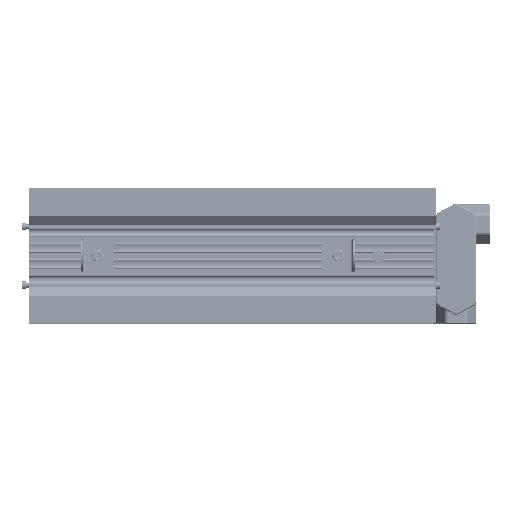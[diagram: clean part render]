
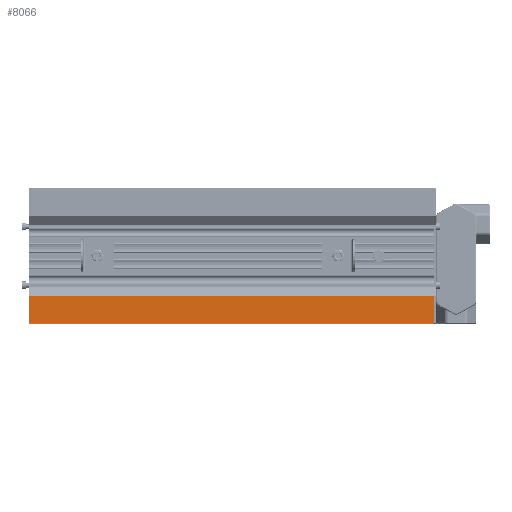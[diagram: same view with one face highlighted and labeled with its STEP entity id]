
A CAD part, top view. The second image highlights one B-rep face of the part: STEP entity #8066.
In plain terms, the highlighted planar face has unit normal (0, 0, 1).
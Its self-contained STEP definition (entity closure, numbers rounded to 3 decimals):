
#3592=CARTESIAN_POINT('',(307.0,-36.5,0.0));
#3593=VERTEX_POINT('',#3592);
#3600=CARTESIAN_POINT('',(307.0,-61.65,0.0));
#3601=VERTEX_POINT('',#3600);
#3602=CARTESIAN_POINT('',(307.0,-36.5,0.0));
#3603=DIRECTION('',(0.0,-1.0,0.0));
#3604=VECTOR('',#3603,25.15);
#3605=LINE('',#3602,#3604);
#3606=EDGE_CURVE('',#3593,#3601,#3605,.T.);
#5894=CARTESIAN_POINT('',(-63.0,-61.65,0.0));
#5895=VERTEX_POINT('',#5894);
#5903=CARTESIAN_POINT('',(-63.0,-36.5,0.0));
#5904=VERTEX_POINT('',#5903);
#5905=CARTESIAN_POINT('',(-63.0,-61.65,0.0));
#5906=DIRECTION('',(0.0,1.0,0.0));
#5907=VECTOR('',#5906,25.15);
#5908=LINE('',#5905,#5907);
#5909=EDGE_CURVE('',#5895,#5904,#5908,.T.);
#7000=CARTESIAN_POINT('',(307.0,-61.65,0.0));
#7001=DIRECTION('',(-1.0,0.0,0.0));
#7002=VECTOR('',#7001,370.0);
#7003=LINE('',#7000,#7002);
#7004=EDGE_CURVE('',#3601,#5895,#7003,.T.);
#8046=CARTESIAN_POINT('',(-63.0,-36.5,0.0));
#8047=DIRECTION('',(1.0,0.0,0.0));
#8048=VECTOR('',#8047,370.0);
#8049=LINE('',#8046,#8048);
#8050=EDGE_CURVE('',#5904,#3593,#8049,.T.);
#8055=CARTESIAN_POINT('',(-63.0,-36.5,0.0));
#8056=DIRECTION('',(0.0,0.0,-1.0));
#8057=DIRECTION('',(0.0,1.0,0.0));
#8058=AXIS2_PLACEMENT_3D('',#8055,#8056,#8057);
#8059=PLANE('',#8058);
#8060=ORIENTED_EDGE('',*,*,#7004,.F.);
#8061=ORIENTED_EDGE('',*,*,#3606,.F.);
#8062=ORIENTED_EDGE('',*,*,#8050,.F.);
#8063=ORIENTED_EDGE('',*,*,#5909,.F.);
#8064=EDGE_LOOP('',(#8060,#8061,#8062,#8063));
#8065=FACE_OUTER_BOUND('',#8064,.T.);
#8066=ADVANCED_FACE('',(#8065),#8059,.F.);
